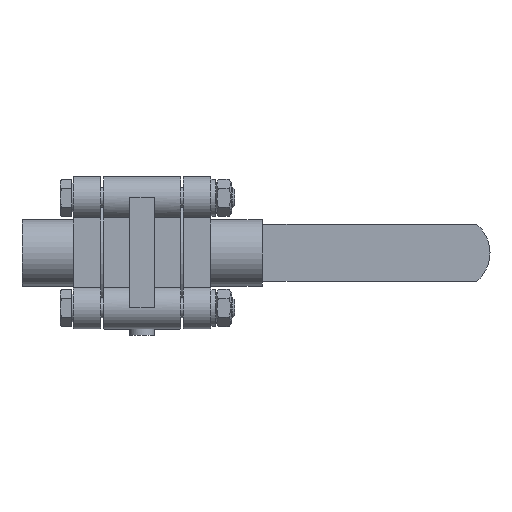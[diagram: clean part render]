
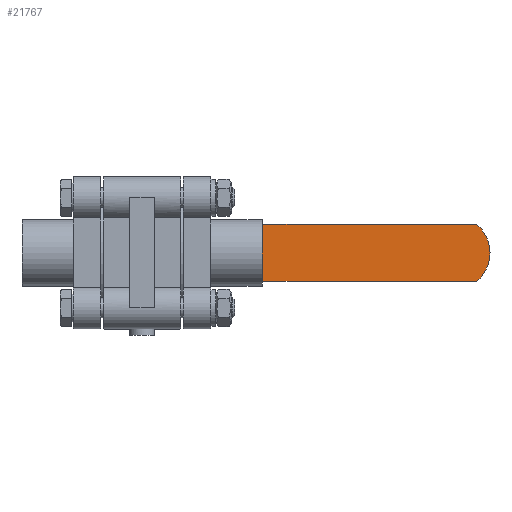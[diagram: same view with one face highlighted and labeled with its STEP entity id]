
A CAD part, front view. The second image highlights one B-rep face of the part: STEP entity #21767.
In plain terms, the highlighted planar face has unit normal (0, -1, 0).
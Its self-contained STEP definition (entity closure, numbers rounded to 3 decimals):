
#1114=PLANE('',#23106);
#3028=FACE_OUTER_BOUND('',#4222,.T.);
#4222=EDGE_LOOP('',(#15911,#15912,#15913,#15914));
#5521=CIRCLE('',#23104,15.);
#6418=LINE('',#30897,#8291);
#6420=LINE('',#30901,#8293);
#6421=LINE('',#30902,#8294);
#8291=VECTOR('',#25444,10.);
#8293=VECTOR('',#25448,10.);
#8294=VECTOR('',#25449,10.);
#10197=VERTEX_POINT('',#30890);
#10198=VERTEX_POINT('',#30891);
#10199=VERTEX_POINT('',#30896);
#10200=VERTEX_POINT('',#30900);
#12405=EDGE_CURVE('',#10197,#10198,#5521,.T.);
#12408=EDGE_CURVE('',#10199,#10197,#6418,.T.);
#12410=EDGE_CURVE('',#10200,#10198,#6420,.T.);
#12411=EDGE_CURVE('',#10199,#10200,#6421,.T.);
#15911=ORIENTED_EDGE('',*,*,#12405,.T.);
#15912=ORIENTED_EDGE('',*,*,#12410,.F.);
#15913=ORIENTED_EDGE('',*,*,#12411,.F.);
#15914=ORIENTED_EDGE('',*,*,#12408,.T.);
#21767=ADVANCED_FACE('',(#3028),#1114,.T.);
#23104=AXIS2_PLACEMENT_3D('',#30892,#25438,#25439);
#23106=AXIS2_PLACEMENT_3D('',#30899,#25446,#25447);
#25438=DIRECTION('center_axis',(0.,-1.,0.));
#25439=DIRECTION('ref_axis',(0.642,0.,0.767));
#25444=DIRECTION('',(1.,0.,0.));
#25446=DIRECTION('center_axis',(0.,-1.,0.));
#25447=DIRECTION('ref_axis',(0.,0.,
-1.));
#25448=DIRECTION('',(1.,0.,0.));
#25449=DIRECTION('',(0.,0.,1.));
#30890=CARTESIAN_POINT('',(115.224,217.598,-13.802));
#30891=CARTESIAN_POINT('',(115.224,217.598,9.198));
#30892=CARTESIAN_POINT('Origin',(105.593,217.598,-2.302));
#30896=CARTESIAN_POINT('',(25.593,217.598,-13.802));
#30897=CARTESIAN_POINT('',(25.593,217.598,-13.802));
#30899=CARTESIAN_POINT('Origin',(25.593,217.598,9.198));
#30900=CARTESIAN_POINT('',(25.593,217.598,9.198));
#30901=CARTESIAN_POINT('',(25.593,217.598,9.198));
#30902=CARTESIAN_POINT('',(25.593,217.598,-13.802));
